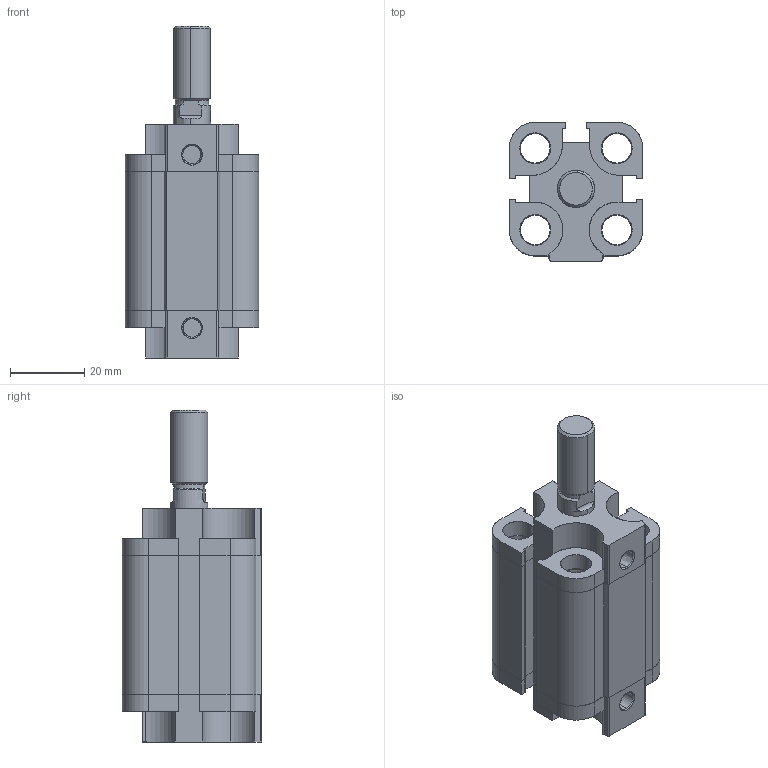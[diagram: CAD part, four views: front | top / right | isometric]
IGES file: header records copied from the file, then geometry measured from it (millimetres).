
Start section: SolidWorks IGES file using analytic representation for surfaces
Global section: file name: D:\ARICA 3D ÇÝZÝMLER\3D IGES\ADVU-S-A\ADVU-S-A 20\ADVU20X25-S-A-CYLINDER.IGS; native system: SolidWorks 2013; preprocessor: SolidWorks 2013; author: user; date: 150413.111347; units: millimetre
Bounding box: 36 x 37.5 x 89.5 mm (x, y, z)
Surface area: 28028.3 mm2 (no closed solid volume)
Topology: 0 solids, 0 shells, 302 faces, 4450 edges, 4450 vertices
Faces by surface type: revolution 163, bspline 139
